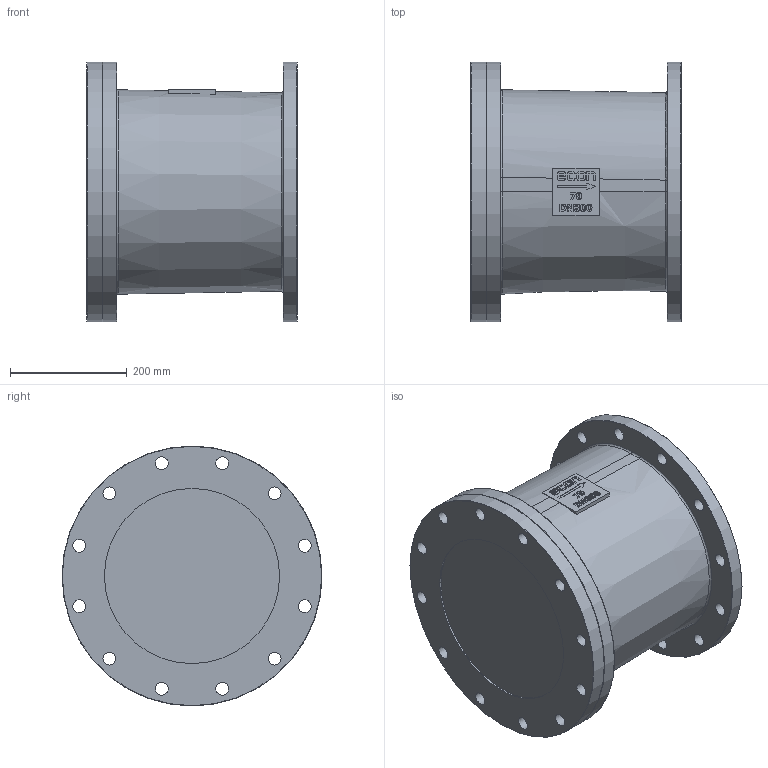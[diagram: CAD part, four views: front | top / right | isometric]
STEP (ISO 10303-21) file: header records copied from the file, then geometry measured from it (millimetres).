
FILE_DESCRIPTION(/* description */ ('Eriks item no: 12160583'),/* implementation_level */ '2;1');
FILE_NAME(/* name */ 'L:\DATA\ENG\Inventor\Econ 3D modellen\terugslagklep\70NGY\70NGY-DN300-PN10-NBR.stp',/* time_stamp */ '2023-12-05T08:13:11+01:00',/* author */ ('roger.thijssen'),/* organization */ (''),/* preprocessor_version */ 'ST-DEVELOPER v18',/* originating_system */ 'Autodesk Inventor 2020',/* authorisation */ '');
FILE_SCHEMA (('CONFIG_CONTROL_DESIGN'));
Length unit declared in the file: millimetre
Products named in the file (1): Check valve, 70NGY-DN300-PN10-NBR
Bounding box: 360 x 445 x 445 mm (x, y, z)
Volume: 38455494.6 mm3; surface area: 895617.4 mm2
Topology: 1 solids, 1 shells, 234 faces, 632 edges, 422 vertices
Faces by surface type: plane 107, bspline 68, cylinder 50, cone 7, torus 2
Full cylindrical faces by diameter (mm): 22 x24, 300 x2, 445 x3
Entity records: 8277 total; most frequent: CARTESIAN_POINT 2525, ORIENTED_EDGE 1264, DIRECTION 976, EDGE_CURVE 632, VERTEX_POINT 422, LINE 364, VECTOR 364, AXIS2_PLACEMENT_3D 306
